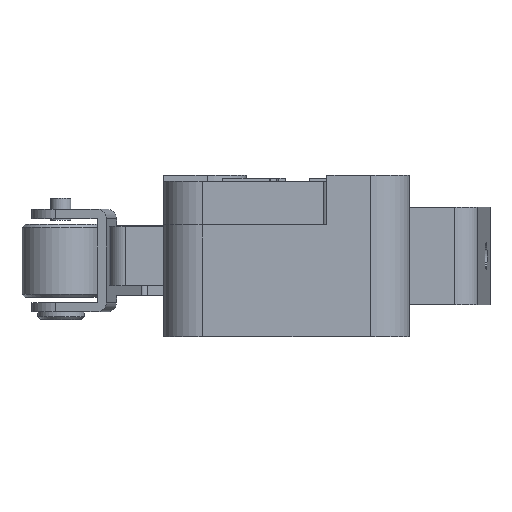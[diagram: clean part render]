
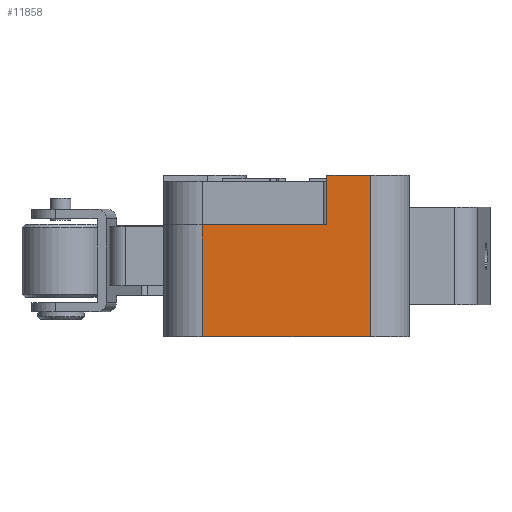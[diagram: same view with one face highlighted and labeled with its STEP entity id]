
A CAD part, left-side view. The second image highlights one B-rep face of the part: STEP entity #11858.
In plain terms, the highlighted planar face has unit normal (-1, 0, 0).
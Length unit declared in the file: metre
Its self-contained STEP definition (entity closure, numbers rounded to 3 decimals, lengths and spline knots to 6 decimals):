
#11518=CARTESIAN_POINT('',(-0.027238,-0.006323,0.022913));
#11519=VERTEX_POINT('',#11518);
#11522=CARTESIAN_POINT('',(-0.027238,-0.006323,0.030113));
#11523=DIRECTION('',(0.,0.,-1.));
#11524=VECTOR('',#11523,1.);
#11525=LINE('',#11522,#11524);
#11526=CARTESIAN_POINT('',(-0.027238,-0.006323,0.030113));
#11527=VERTEX_POINT('',#11526);
#11528=EDGE_CURVE('',#11527,#11519,#11525,.T.);
#11726=CARTESIAN_POINT('',(-0.027238,-0.017123,0.033313));
#11727=VERTEX_POINT('',#11726);
#11761=CARTESIAN_POINT('',(-0.027238,-0.014323,0.033313));
#11762=VERTEX_POINT('',#11761);
#11765=CARTESIAN_POINT('',(-0.027238,-0.014323,0.033313));
#11766=DIRECTION('',(0.,-1.,0.));
#11767=VECTOR('',#11766,1.);
#11768=LINE('',#11765,#11767);
#11769=EDGE_CURVE('',#11762,#11727,#11768,.T.);
#11798=CARTESIAN_POINT('',(-0.027238,-0.017123,0.022913));
#11799=VERTEX_POINT('',#11798);
#11811=CARTESIAN_POINT('',(-0.027238,-0.017123,0.033313));
#11812=DIRECTION('',(0.,0.,-1.));
#11813=VECTOR('',#11812,1.);
#11814=LINE('',#11811,#11813);
#11815=EDGE_CURVE('',#11727,#11799,#11814,.T.);
#11828=CARTESIAN_POINT('',(-0.027238,-0.014323,0.033313));
#11829=DIRECTION('',(1.,0.,0.));
#11830=DIRECTION('',(0.,1.,0.));
#11831=AXIS2_PLACEMENT_3D('',#11828,#11829,#11830);
#11832=PLANE('',#11831);
#11833=CARTESIAN_POINT('',(-0.027238,-0.014323,0.022913));
#11834=DIRECTION('',(0.,-1.,0.));
#11835=VECTOR('',#11834,1.);
#11836=LINE('',#11833,#11835);
#11837=EDGE_CURVE('',#11519,#11799,#11836,.T.);
#11838=ORIENTED_EDGE('',*,*,#11837,.T.);
#11839=ORIENTED_EDGE('',*,*,#11815,.F.);
#11840=ORIENTED_EDGE('',*,*,#11769,.F.);
#11841=CARTESIAN_POINT('',(-0.027238,-0.014323,0.033313));
#11842=DIRECTION('',(0.,0.,-1.));
#11843=VECTOR('',#11842,1.);
#11844=LINE('',#11841,#11843);
#11845=CARTESIAN_POINT('',(-0.027238,-0.014323,0.030113));
#11846=VERTEX_POINT('',#11845);
#11847=EDGE_CURVE('',#11762,#11846,#11844,.T.);
#11848=ORIENTED_EDGE('',*,*,#11847,.T.);
#11849=CARTESIAN_POINT('',(-0.027238,-0.011723,0.030113));
#11850=DIRECTION('',(0.,-1.,0.));
#11851=VECTOR('',#11850,1.);
#11852=LINE('',#11849,#11851);
#11853=EDGE_CURVE('',#11527,#11846,#11852,.T.);
#11854=ORIENTED_EDGE('',*,*,#11853,.F.);
#11855=ORIENTED_EDGE('',*,*,#11528,.T.);
#11856=EDGE_LOOP('',(#11838,#11839,#11840,#11848,#11854,#11855));
#11857=FACE_BOUND('',#11856,.T.);
#11858=ADVANCED_FACE('',(#11857),#11832,.F.);
